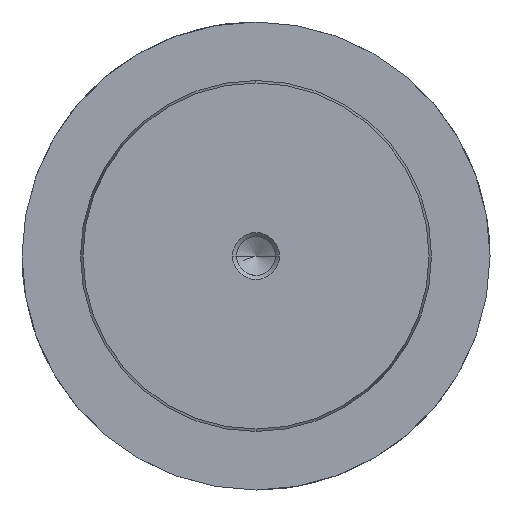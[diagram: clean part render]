
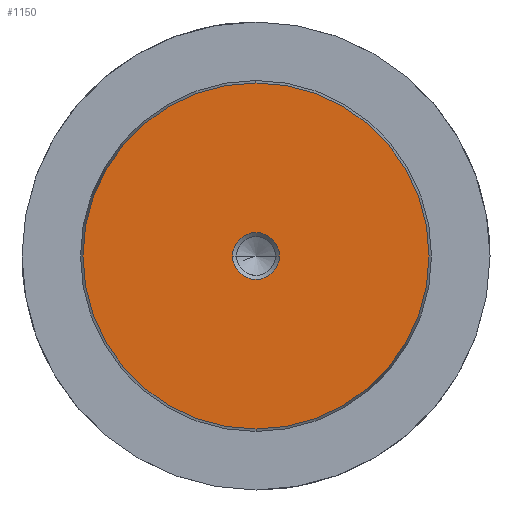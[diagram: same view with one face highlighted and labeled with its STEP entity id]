
A CAD part, left-side view. The second image highlights one B-rep face of the part: STEP entity #1150.
In plain terms, the highlighted planar face has unit normal (-1, 0, 0).
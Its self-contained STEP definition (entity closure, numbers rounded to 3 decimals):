
#1064=CARTESIAN_POINT('Vertex',(0.,0.,-29.578)) ;
#1067=CARTESIAN_POINT('Axis2P3D Location',(0.,0.,0.)) ;
#1071=CARTESIAN_POINT('Vertex',(0.,29.578,0.)) ;
#1074=CARTESIAN_POINT('Axis2P3D Location',(0.,0.,0.)) ;
#1078=CARTESIAN_POINT('Vertex',(0.,0.,29.578)) ;
#1100=CARTESIAN_POINT('Axis2P3D Location',(0.,0.,0.)) ;
#1104=CARTESIAN_POINT('Vertex',(0.,-29.578,0.)) ;
#1107=CARTESIAN_POINT('Axis2P3D Location',(0.,0.,0.)) ;
#1121=CARTESIAN_POINT('Axis2P3D Location',(0.,0.,0.)) ;
#1132=CARTESIAN_POINT('Axis2P3D Location',(0.,0.,0.)) ;
#1136=CARTESIAN_POINT('Vertex',(0.,4.,0.)) ;
#1138=CARTESIAN_POINT('Vertex',(0.,-4.,0.)) ;
#1141=CARTESIAN_POINT('Axis2P3D Location',(0.,0.,0.)) ;
#1068=DIRECTION('Axis2P3D Direction',(1.,0.,-0.)) ;
#1075=DIRECTION('Axis2P3D Direction',(1.,0.,-0.)) ;
#1101=DIRECTION('Axis2P3D Direction',(1.,0.,-0.)) ;
#1108=DIRECTION('Axis2P3D Direction',(1.,0.,-0.)) ;
#1122=DIRECTION('Axis2P3D Direction',(1.,0.,-0.)) ;
#1123=DIRECTION('Axis2P3D XDirection',(-0.,0.,-1.)) ;
#1133=DIRECTION('Axis2P3D Direction',(1.,0.,-0.)) ;
#1142=DIRECTION('Axis2P3D Direction',(1.,0.,-0.)) ;
#1069=AXIS2_PLACEMENT_3D('Circle Axis2P3D',#1067,#1068,$) ;
#1076=AXIS2_PLACEMENT_3D('Circle Axis2P3D',#1074,#1075,$) ;
#1102=AXIS2_PLACEMENT_3D('Circle Axis2P3D',#1100,#1101,$) ;
#1109=AXIS2_PLACEMENT_3D('Circle Axis2P3D',#1107,#1108,$) ;
#1124=AXIS2_PLACEMENT_3D('Plane Axis2P3D',#1121,#1122,#1123) ;
#1134=AXIS2_PLACEMENT_3D('Circle Axis2P3D',#1132,#1133,$) ;
#1143=AXIS2_PLACEMENT_3D('Circle Axis2P3D',#1141,#1142,$) ;
#1127=ORIENTED_EDGE('',*,*,#1073,.F.) ;
#1128=ORIENTED_EDGE('',*,*,#1111,.F.) ;
#1129=ORIENTED_EDGE('',*,*,#1106,.F.) ;
#1130=ORIENTED_EDGE('',*,*,#1080,.F.) ;
#1147=ORIENTED_EDGE('',*,*,#1140,.T.) ;
#1148=ORIENTED_EDGE('',*,*,#1145,.T.) ;
#1149=FACE_BOUND('',#1146,.T.) ;
#1150=ADVANCED_FACE('718-60x400',(#1131,#1149),#1125,.F.) ;
#1070=CIRCLE('generated circle',#1069,29.578) ;
#1077=CIRCLE('generated circle',#1076,29.578) ;
#1103=CIRCLE('generated circle',#1102,29.578) ;
#1110=CIRCLE('generated circle',#1109,29.578) ;
#1135=CIRCLE('generated circle',#1134,4.) ;
#1144=CIRCLE('generated circle',#1143,4.) ;
#1073=EDGE_CURVE('',#1065,#1072,#1070,.T.) ;
#1080=EDGE_CURVE('',#1072,#1079,#1077,.T.) ;
#1106=EDGE_CURVE('',#1079,#1105,#1103,.T.) ;
#1111=EDGE_CURVE('',#1105,#1065,#1110,.T.) ;
#1140=EDGE_CURVE('',#1137,#1139,#1135,.T.) ;
#1145=EDGE_CURVE('',#1139,#1137,#1144,.T.) ;
#1126=EDGE_LOOP('',(#1127,#1128,#1129,#1130)) ;
#1146=EDGE_LOOP('',(#1147,#1148)) ;
#1131=FACE_OUTER_BOUND('',#1126,.T.) ;
#1125=PLANE('Plane',#1124) ;
#1065=VERTEX_POINT('',#1064) ;
#1072=VERTEX_POINT('',#1071) ;
#1079=VERTEX_POINT('',#1078) ;
#1105=VERTEX_POINT('',#1104) ;
#1137=VERTEX_POINT('',#1136) ;
#1139=VERTEX_POINT('',#1138) ;
